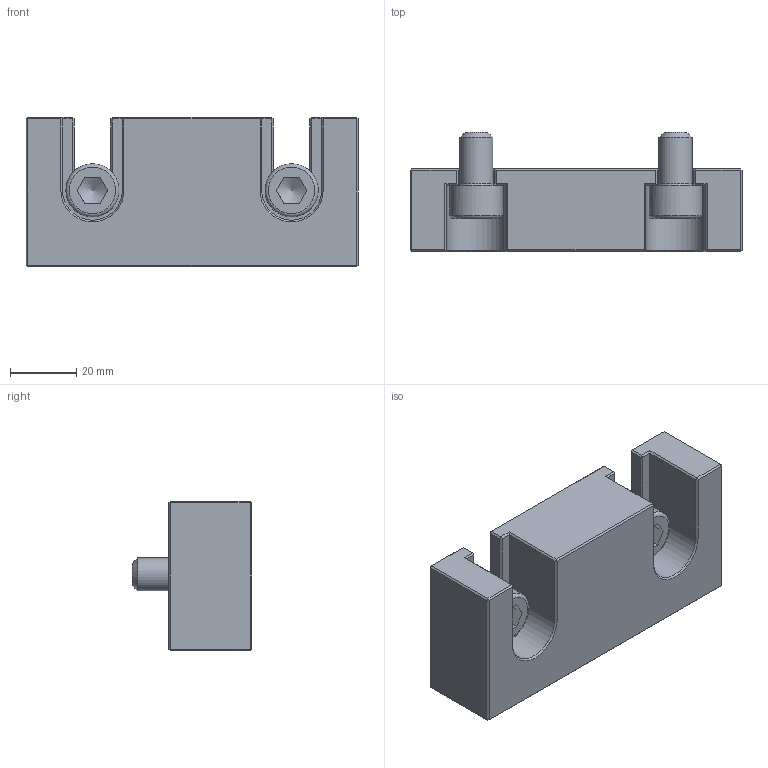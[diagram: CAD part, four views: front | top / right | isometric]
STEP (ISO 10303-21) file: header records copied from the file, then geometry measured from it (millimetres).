
FILE_DESCRIPTION(('STEP AP214'), '1');
FILE_NAME('BB.VS.100.70.010', '', ('UNSPECIFIED'), ('UNSPECIFIED'), 'C3D Converter', 'C3D Toolkit', '');
FILE_SCHEMA(('AUTOMOTIVE_DESIGN { 1 0 10303 214 3 1 1}'));
Length unit declared in the file: millimetre
Products named in the file (1): BB.VS.100.70.010 СБ
Bounding box: 100 x 36 x 45 mm (x, y, z)
Volume: 94309.6 mm3; surface area: 20203.5 mm2
Topology: 1 solids, 1 shells, 118 faces, 256 edges, 142 vertices
Faces by surface type: plane 96, cone 10, cylinder 8, torus 4
Full cylindrical faces by diameter (mm): 10 x2, 16 x2
Entity records: 4427 total; most frequent: CARTESIAN_POINT 991, DIRECTION 498, ORIENTED_EDGE 484, EDGE_CURVE 242, LINE 196, VECTOR 196, AXIS2_PLACEMENT_3D 151, VERTEX_POINT 140
